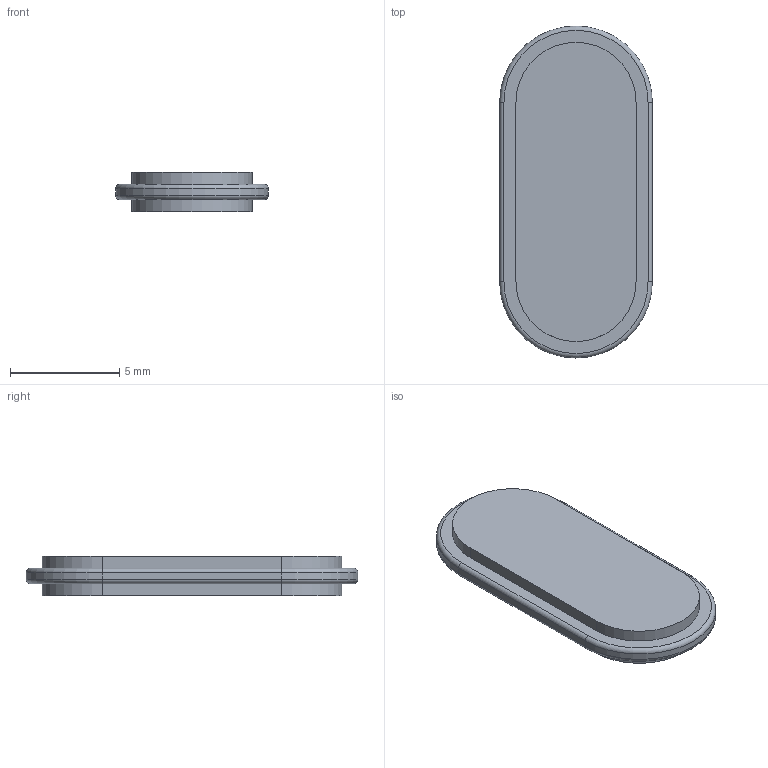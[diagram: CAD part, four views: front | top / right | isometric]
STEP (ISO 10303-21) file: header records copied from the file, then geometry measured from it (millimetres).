
FILE_DESCRIPTION(('STEP AP203'), '1');
FILE_NAME('盟秩.741341.014 青汶篪赅 (17.05.19)', '2020-01-10T07:12:44', ('Dydelka'), (''), 'ASCON STEP Converter 1.3', 'ASCON Math Kernel', '');
FILE_SCHEMA(('CONFIG_CONTROL_DESIGN'));
Length unit declared in the file: millimetre
Products named in the file (1): 襠窏.741341.014
Bounding box: 7 x 15.2 x 1.8 mm (x, y, z)
Volume: 142.2 mm3; surface area: 249.1 mm2
Topology: 1 solids, 1 shells, 24 faces, 52 edges, 32 vertices
Faces by surface type: plane 10, cylinder 10, torus 4
Entity records: 892 total; most frequent: DIRECTION 126, CARTESIAN_POINT 109, ORIENTED_EDGE 104, EDGE_CURVE 52, AXIS2_PLACEMENT_3D 49, VERTEX_POINT 32, LINE 28, VECTOR 28
